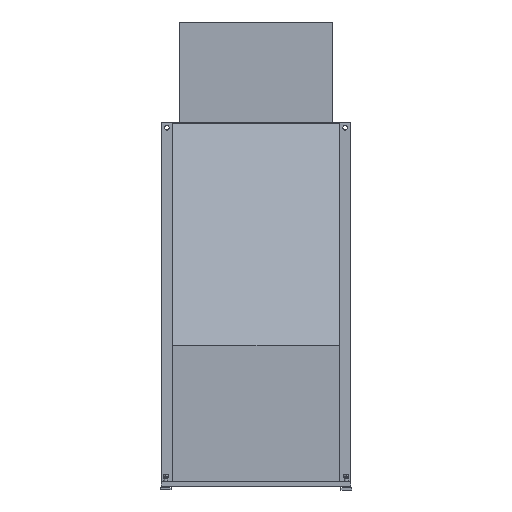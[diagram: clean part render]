
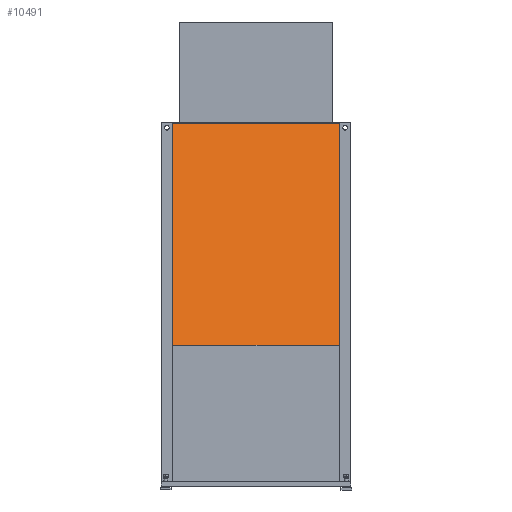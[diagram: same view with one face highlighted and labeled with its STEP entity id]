
A CAD part, left-side view. The second image highlights one B-rep face of the part: STEP entity #10491.
In plain terms, the highlighted planar face has unit normal (-0.942, 0, 0.334).
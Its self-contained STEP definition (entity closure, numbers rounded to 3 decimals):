
#10386=CARTESIAN_POINT('',(-1012.5,-550.,930.0));
#10387=VERTEX_POINT('',#10386);
#10394=CARTESIAN_POINT('',(-1012.5,550.0,930.0));
#10395=VERTEX_POINT('',#10394);
#10396=CARTESIAN_POINT('',(-1012.5,550.0,930.0));
#10397=DIRECTION('',(0.0,-1.0,0.0));
#10398=VECTOR('',#10397,1100.);
#10399=LINE('',#10396,#10398);
#10400=EDGE_CURVE('',#10395,#10387,#10399,.T.);
#10417=CARTESIAN_POINT('',(-494.5,-550.,2390.));
#10418=VERTEX_POINT('',#10417);
#10435=CARTESIAN_POINT('',(-494.5,550.0,2390.));
#10436=VERTEX_POINT('',#10435);
#10443=CARTESIAN_POINT('',(-494.5,550.0,2390.));
#10444=DIRECTION('',(0.0,-1.0,0.0));
#10445=VECTOR('',#10444,1100.);
#10446=LINE('',#10443,#10445);
#10447=EDGE_CURVE('',#10436,#10418,#10446,.T.);
#10466=CARTESIAN_POINT('',(-1012.5,-550.,930.0));
#10467=DIRECTION('',(0.334,0.0,0.942));
#10468=VECTOR('',#10467,1549.169);
#10469=LINE('',#10466,#10468);
#10470=EDGE_CURVE('',#10387,#10418,#10469,.T.);
#10475=CARTESIAN_POINT('',(-1012.5,550.0,930.0));
#10476=DIRECTION('',(-0.942,0.0,0.334));
#10477=DIRECTION('',(0.334,0.0,0.942));
#10478=AXIS2_PLACEMENT_3D('',#10475,#10476,#10477);
#10479=PLANE('',#10478);
#10480=ORIENTED_EDGE('',*,*,#10447,.F.);
#10481=CARTESIAN_POINT('',(-494.5,550.0,2390.));
#10482=DIRECTION('',(-0.334,0.0,-0.942));
#10483=VECTOR('',#10482,1549.169);
#10484=LINE('',#10481,#10483);
#10485=EDGE_CURVE('',#10436,#10395,#10484,.T.);
#10486=ORIENTED_EDGE('',*,*,#10485,.T.);
#10487=ORIENTED_EDGE('',*,*,#10400,.T.);
#10488=ORIENTED_EDGE('',*,*,#10470,.T.);
#10489=EDGE_LOOP('',(#10480,#10486,#10487,#10488));
#10490=FACE_OUTER_BOUND('',#10489,.T.);
#10491=ADVANCED_FACE('',(#10490),#10479,.T.);
